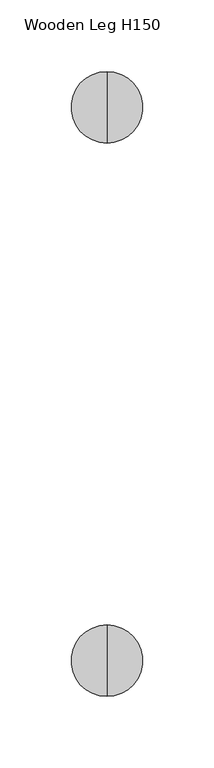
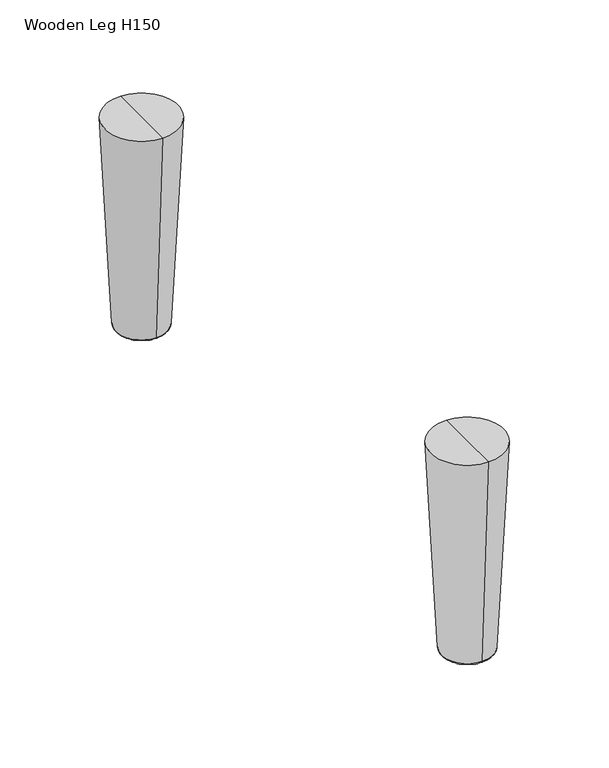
"""IFC4 building model written with IfcOpenShell, lengths in millimetres: furniture geometry, Steelcase EMEA - Volum Art - Accessories - Leg : Wooden Leg H150."""

from ifc_helpers import new_model, si_unit, point, frame, origin, place, context, project, spatial, polyline, circle_curve, ellipse_curve, trimmed, source, transform, mapped, element, save
from ifc_brep_helpers import plane_surface, cylinder_surface, revolved_surface, advanced_brep


def wooden_leg_h150_7fd3a910(model_context):
    return source(origin(), model_context, "Body", "AdvancedBrep", [
        advanced_brep(
        [(90.0, -409.3735315, 0.6299678), (90.0, -427.539616, 0.6299678), (90.0, -427.539616, 4.0738905), (90.0, -409.3735315, 4.0738905), (90.0, -425.5263745, 6.9490974), (90.0, -411.3867731, 6.9490974), (90.0, -425.5263745, 68.0), (90.0, -411.3867731, 68.0), (90.0, -418.4565738, 68.0), (90.0, -418.4565738, 0.0), (90.0, -426.9096482, 0.0), (90.0, -410.0034993, 0.0)],
        [
            (0, 1, circle_curve(frame((90.0, -418.4565738, 0.6299678), z_axis=(0.0, 0.0, 1.0), x_axis=(0.0, -1.0, 0.0)), 9.0830423)),
            (1, 2),
            (2, 3, circle_curve(frame((90.0, -418.4565738, 4.0738905), z_axis=(0.0, 0.0, -1.0), x_axis=(0.0, -1.0, 0.0)), 9.0830423)),
            (3, 0),
            (1, 0, circle_curve(frame((90.0, -418.4565738, 0.6299678), z_axis=(0.0, 0.0, 1.0), x_axis=(0.0, -1.0, 0.0)), 9.0830423)),
            (3, 2, circle_curve(frame((90.0, -418.4565738, 4.0738905), z_axis=(0.0, 0.0, -1.0), x_axis=(0.0, -1.0, 0.0)), 9.0830423)),
            (2, 4),
            (4, 5, circle_curve(frame((90.0, -418.4565738, 6.9490974), z_axis=(0.0, 0.0, -1.0), x_axis=(0.0, -1.0, 0.0)), 7.0698007)),
            (5, 3),
            (5, 4, circle_curve(frame((90.0, -418.4565738, 6.9490974), z_axis=(0.0, 0.0, -1.0), x_axis=(0.0, -1.0, 0.0)), 7.0698007)),
            (4, 6),
            (6, 7, circle_curve(frame((90.0, -418.4565738, 68.0), z_axis=(0.0, 0.0, -1.0), x_axis=(0.0, -1.0, 0.0)), 7.0698007)),
            (7, 5),
            (7, 6, circle_curve(frame((90.0, -418.4565738, 68.0), z_axis=(0.0, 0.0, -1.0), x_axis=(0.0, -1.0, 0.0)), 7.0698007)),
            (6, 8),
            (8, 7),
            (9, 10),
            (10, 11, circle_curve(frame((90.0, -418.4565738, 0.0), z_axis=(0.0, 0.0, -1.0), x_axis=(0.0, -1.0, 0.0)), 8.4530745)),
            (11, 9),
            (11, 10, circle_curve(frame((90.0, -418.4565738, 0.0), z_axis=(0.0, 0.0, -1.0), x_axis=(0.0, -1.0, 0.0)), 8.4530745)),
            (10, 1, circle_curve(frame((90.0, -426.9096482, 0.6299678), z_axis=(-1.0, 0.0, 0.0), x_axis=(0.0, 1.0, 0.0)), 0.6299678)),
            (0, 11, circle_curve(frame((90.0, -410.0034993, 0.6299678), z_axis=(-1.0, 0.0, 0.0), x_axis=(0.0, -1.0, 0.0)), 0.6299678)),
        ],
        [
            cylinder_surface(frame((90.0, -418.4565738, 5.6670351), z_axis=(0.0, 0.0, -1.0), x_axis=(0.0, -1.0, 0.0)), 9.0830423),
            revolved_surface(polyline([(90.0, -425.5263745, 6.9490974), (90.0, -427.539616, 4.0738905)]), (90.0, -418.4565738, 5.6670351), (0.0, 0.0, -1.0)),
            cylinder_surface(frame((90.0, -418.4565738, 5.6670351), z_axis=(0.0, 0.0, -1.0), x_axis=(0.0, -1.0, 0.0)), 7.0698007),
            plane_surface(frame((90.0, -418.4565738, 68.0), z_axis=(0.0, 0.0, 1.0), x_axis=(0.0, -1.0, 0.0))),
            plane_surface(frame((90.0, -418.4565738, 0.0), z_axis=(0.0, 0.0, -1.0), x_axis=(0.0, -1.0, 0.0))),
            revolved_surface(trimmed(ellipse_curve(frame((90.0, -426.9096482, 0.6299678), z_axis=(1.0, 0.0, 0.0), x_axis=(0.0, 1.0, 0.0)), 0.6299678, 0.6299678), [point((90.0, -427.539616, 0.6299678))], [point((90.0, -426.9096482, 0.0))], True, "CARTESIAN"), (90.0, -418.4565738, 5.6670351), (0.0, 0.0, -1.0)),
        ],
        [
            (0, [[1, 2, 3, 4]]),
            (0, [[5, -4, 6, -2]]),
            (1, [[-3, 7, 8, 9]]),
            (1, [[-6, -9, 10, -7]]),
            (2, [[-8, 11, 12, 13]]),
            (2, [[-10, -13, 14, -11]]),
            (3, [[-12, 15, 16]]),
            (3, [[-14, -16, -15]]),
            (4, [[17, 18, 19]]),
            (4, [[-19, 20, -17]]),
            (5, [[-18, 21, -1, 22]]),
            (5, [[-20, -22, -5, -21]]),
        ],
    ),
        advanced_brep(
        [(90.0, -393.513709, 152.0), (90.0, -443.513709, 152.0), (90.0, -418.513709, 152.0), (90.0, -418.513709, 2.0), (90.0, -435.1030176, 2.0), (90.0, -401.9244003, 2.0), (90.0, -400.9376404, 2.9388378), (90.0, -436.0897775, 2.9388378)],
        [
            (0, 1, circle_curve(frame((90.0, -418.513709, 152.0), z_axis=(0.0, 0.0, 1.0), x_axis=(0.0, -1.0, 0.0)), 25.0)),
            (1, 2),
            (2, 0),
            (1, 0, circle_curve(frame((90.0, -418.513709, 152.0), z_axis=(0.0, 0.0, 1.0), x_axis=(0.0, -1.0, 0.0)), 25.0)),
            (3, 4),
            (4, 5, circle_curve(frame((90.0, -418.513709, 2.0), z_axis=(0.0, 0.0, -1.0), x_axis=(0.0, -1.0, 0.0)), 16.5893086)),
            (5, 3),
            (5, 4, circle_curve(frame((90.0, -418.513709, 2.0), z_axis=(0.0, 0.0, -1.0), x_axis=(0.0, -1.0, 0.0)), 16.5893086)),
            (6, 7, circle_curve(frame((90.0, -418.513709, 2.9388378), z_axis=(0.0, 0.0, 1.0), x_axis=(0.0, -1.0, 0.0)), 17.5760685)),
            (7, 1),
            (0, 6),
            (7, 6, circle_curve(frame((90.0, -418.513709, 2.9388378), z_axis=(0.0, 0.0, 1.0), x_axis=(0.0, -1.0, 0.0)), 17.5760685)),
            (4, 7, circle_curve(frame((90.0, -435.1030176, 2.987983), z_axis=(-1.0, 0.0, 0.0), x_axis=(0.0, 1.0, 0.0)), 0.987983)),
            (6, 5, circle_curve(frame((90.0, -401.9244003, 2.987983), z_axis=(-1.0, 0.0, 0.0), x_axis=(0.0, -1.0, 0.0)), 0.987983)),
        ],
        [
            plane_surface(frame((90.0, -418.513709, 152.0), z_axis=(0.0, 0.0, 1.0), x_axis=(0.0, -1.0, 0.0))),
            plane_surface(frame((90.0, -418.513709, 2.0), z_axis=(0.0, 0.0, -1.0), x_axis=(0.0, -1.0, 0.0))),
            revolved_surface(polyline([(90.0, -443.513709, 152.0), (90.0, -436.0897775, 2.9388378)]), (90.0, -418.513709, 152.0), (0.0, 0.0, -1.0)),
            revolved_surface(trimmed(ellipse_curve(frame((90.0, -435.1030176, 2.987983), z_axis=(1.0, 0.0, 0.0), x_axis=(0.0, 1.0, 0.0)), 0.987983, 0.987983), [point((90.0, -436.0897775, 2.9388378))], [point((90.0, -435.1030176, 2.0))], True, "CARTESIAN"), (90.0, -418.513709, 152.0), (0.0, 0.0, -1.0)),
        ],
        [
            (0, [[1, 2, 3]]),
            (0, [[4, -3, -2]]),
            (1, [[5, 6, 7]]),
            (1, [[-7, 8, -5]]),
            (2, [[9, 10, -1, 11]]),
            (2, [[12, -11, -4, -10]]),
            (3, [[-6, 13, -9, 14]]),
            (3, [[-8, -14, -12, -13]]),
        ],
    ),
        advanced_brep(
        [(90.0, -40.6264685, 4.0738905), (90.0, -22.460384, 4.0738905), (90.0, -22.460384, 0.6299678), (90.0, -40.6264685, 0.6299678), (90.0, -38.6132269, 6.9490974), (90.0, -24.4736255, 6.9490974), (90.0, -38.6132269, 68.0), (90.0, -24.4736255, 68.0), (90.0, -31.5434262, 68.0), (90.0, -39.9965007, 0.0), (90.0, -23.0903518, 0.0), (90.0, -31.5434262, 0.0)],
        [
            (0, 1, circle_curve(frame((90.0, -31.5434262, 4.0738905), z_axis=(0.0, 0.0, -1.0), x_axis=(0.0, 1.0, 0.0)), 9.0830423)),
            (1, 2),
            (2, 3, circle_curve(frame((90.0, -31.5434262, 0.6299678), z_axis=(0.0, 0.0, 1.0), x_axis=(0.0, 1.0, 0.0)), 9.0830423)),
            (3, 0),
            (1, 0, circle_curve(frame((90.0, -31.5434262, 4.0738905), z_axis=(0.0, 0.0, -1.0), x_axis=(0.0, 1.0, 0.0)), 9.0830423)),
            (3, 2, circle_curve(frame((90.0, -31.5434262, 0.6299678), z_axis=(0.0, 0.0, 1.0), x_axis=(0.0, 1.0, 0.0)), 9.0830423)),
            (4, 5, circle_curve(frame((90.0, -31.5434262, 6.9490974), z_axis=(0.0, 0.0, -1.0), x_axis=(0.0, 1.0, 0.0)), 7.0698007)),
            (5, 1),
            (0, 4),
            (5, 4, circle_curve(frame((90.0, -31.5434262, 6.9490974), z_axis=(0.0, 0.0, -1.0), x_axis=(0.0, 1.0, 0.0)), 7.0698007)),
            (6, 7, circle_curve(frame((90.0, -31.5434262, 68.0), z_axis=(0.0, 0.0, -1.0), x_axis=(0.0, 1.0, 0.0)), 7.0698007)),
            (7, 5),
            (4, 6),
            (7, 6, circle_curve(frame((90.0, -31.5434262, 68.0), z_axis=(0.0, 0.0, -1.0), x_axis=(0.0, 1.0, 0.0)), 7.0698007)),
            (8, 7),
            (6, 8),
            (9, 10, circle_curve(frame((90.0, -31.5434262, 0.0), z_axis=(0.0, 0.0, -1.0), x_axis=(0.0, 1.0, 0.0)), 8.4530745)),
            (10, 11),
            (11, 9),
            (10, 9, circle_curve(frame((90.0, -31.5434262, 0.0), z_axis=(0.0, 0.0, -1.0), x_axis=(0.0, 1.0, 0.0)), 8.4530745)),
            (2, 10, circle_curve(frame((90.0, -23.0903518, 0.6299678), z_axis=(-1.0, 0.0, 0.0), x_axis=(0.0, -1.0, 0.0)), 0.6299678)),
            (9, 3, circle_curve(frame((90.0, -39.9965007, 0.6299678), z_axis=(-1.0, 0.0, 0.0), x_axis=(0.0, 1.0, 0.0)), 0.6299678)),
        ],
        [
            cylinder_surface(frame((90.0, -31.5434262, 5.6670351), z_axis=(0.0, 0.0, 1.0), x_axis=(0.0, 1.0, 0.0)), 9.0830423),
            revolved_surface(polyline([(90.0, -22.460384, 4.0738905), (90.0, -24.4736255, 6.9490974)]), (90.0, -31.5434262, 5.6670351), (0.0, 0.0, 1.0)),
            cylinder_surface(frame((90.0, -31.5434262, 5.6670351), z_axis=(0.0, 0.0, 1.0), x_axis=(0.0, 1.0, 0.0)), 7.0698007),
            plane_surface(frame((90.0, -31.5434262, 68.0), z_axis=(0.0, 0.0, 1.0), x_axis=(0.0, 1.0, 0.0))),
            plane_surface(frame((90.0, -31.5434262, 0.0), z_axis=(0.0, 0.0, -1.0), x_axis=(0.0, 1.0, 0.0))),
            revolved_surface(trimmed(ellipse_curve(frame((90.0, -23.0903518, 0.6299678), z_axis=(1.0, 0.0, 0.0), x_axis=(0.0, -1.0, 0.0)), 0.6299678, 0.6299678), [point((90.0, -23.0903518, 0.0))], [point((90.0, -22.460384, 0.6299678))], True, "CARTESIAN"), (90.0, -31.5434262, 5.6670351), (0.0, 0.0, 1.0)),
        ],
        [
            (0, [[1, 2, 3, 4]]),
            (0, [[5, -4, 6, -2]]),
            (1, [[7, 8, -1, 9]]),
            (1, [[10, -9, -5, -8]]),
            (2, [[11, 12, -7, 13]]),
            (2, [[14, -13, -10, -12]]),
            (3, [[15, -11, 16]]),
            (3, [[-16, -14, -15]]),
            (4, [[17, 18, 19]]),
            (4, [[20, -19, -18]]),
            (5, [[-3, 21, -17, 22]]),
            (5, [[-6, -22, -20, -21]]),
        ],
    ),
        advanced_brep(
        [(90.0, -31.486291, 152.0), (90.0, -6.486291, 152.0), (90.0, -56.486291, 152.0), (90.0, -48.0755997, 2.0), (90.0, -14.8969824, 2.0), (90.0, -31.486291, 2.0), (90.0, -13.9102225, 2.9388378), (90.0, -49.0623596, 2.9388378)],
        [
            (0, 1),
            (1, 2, circle_curve(frame((90.0, -31.486291, 152.0), z_axis=(0.0, 0.0, 1.0), x_axis=(0.0, 1.0, 0.0)), 25.0)),
            (2, 0),
            (2, 1, circle_curve(frame((90.0, -31.486291, 152.0), z_axis=(0.0, 0.0, 1.0), x_axis=(0.0, 1.0, 0.0)), 25.0)),
            (3, 4, circle_curve(frame((90.0, -31.486291, 2.0), z_axis=(0.0, 0.0, -1.0), x_axis=(0.0, 1.0, 0.0)), 16.5893086)),
            (4, 5),
            (5, 3),
            (4, 3, circle_curve(frame((90.0, -31.486291, 2.0), z_axis=(0.0, 0.0, -1.0), x_axis=(0.0, 1.0, 0.0)), 16.5893086)),
            (1, 6),
            (6, 7, circle_curve(frame((90.0, -31.486291, 2.9388378), z_axis=(0.0, 0.0, 1.0), x_axis=(0.0, 1.0, 0.0)), 17.5760685)),
            (7, 2),
            (7, 6, circle_curve(frame((90.0, -31.486291, 2.9388378), z_axis=(0.0, 0.0, 1.0), x_axis=(0.0, 1.0, 0.0)), 17.5760685)),
            (6, 4, circle_curve(frame((90.0, -14.8969824, 2.987983), z_axis=(-1.0, 0.0, 0.0), x_axis=(0.0, -1.0, 0.0)), 0.987983)),
            (3, 7, circle_curve(frame((90.0, -48.0755997, 2.987983), z_axis=(-1.0, 0.0, 0.0), x_axis=(0.0, 1.0, 0.0)), 0.987983)),
        ],
        [
            plane_surface(frame((90.0, -31.486291, 152.0), z_axis=(0.0, 0.0, 1.0), x_axis=(0.0, 1.0, 0.0))),
            plane_surface(frame((90.0, -31.486291, 2.0), z_axis=(0.0, 0.0, -1.0), x_axis=(0.0, 1.0, 0.0))),
            revolved_surface(polyline([(90.0, -13.9102225, 2.9388378), (90.0, -6.486291, 152.0)]), (90.0, -31.486291, 152.0), (0.0, 0.0, 1.0)),
            revolved_surface(trimmed(ellipse_curve(frame((90.0, -14.8969824, 2.987983), z_axis=(1.0, 0.0, 0.0), x_axis=(0.0, -1.0, 0.0)), 0.987983, 0.987983), [point((90.0, -14.8969824, 2.0))], [point((90.0, -13.9102225, 2.9388378))], True, "CARTESIAN"), (90.0, -31.486291, 152.0), (0.0, 0.0, 1.0)),
        ],
        [
            (0, [[1, 2, 3]]),
            (0, [[-3, 4, -1]]),
            (1, [[5, 6, 7]]),
            (1, [[8, -7, -6]]),
            (2, [[-2, 9, 10, 11]]),
            (2, [[-4, -11, 12, -9]]),
            (3, [[-10, 13, -5, 14]]),
            (3, [[-12, -14, -8, -13]]),
        ],
    ),
    ])


if __name__ == "__main__":
    model = new_model("IFC4")
    model_context = context("Model", 3, world=origin())
    ifc_project = project(units=[si_unit("LENGTHUNIT", "METRE", prefix="MILLI")], contexts=[model_context])
    site = spatial("IfcSite", under=ifc_project)
    building = spatial("IfcBuilding", under=site)
    placement = place(None, origin())
    wooden_leg_h150_shape = wooden_leg_h150_7fd3a910(model_context)
    element("IfcFurniture", 1, ObjectType="Steelcase EMEA - Volum Art - Accessories - Leg : Wooden Leg H150", at=placement, inside=building, context=model_context, shape_type="MappedRepresentation", body=[
        mapped(wooden_leg_h150_shape, transform((0.0, 0.0, 0.0), x_axis=(1.0, 0.0, 0.0), y_axis=(0.0, 1.0, 0.0), z_axis=(0.0, 0.0, 1.0))),
    ])
    save(model, "model.ifc")
